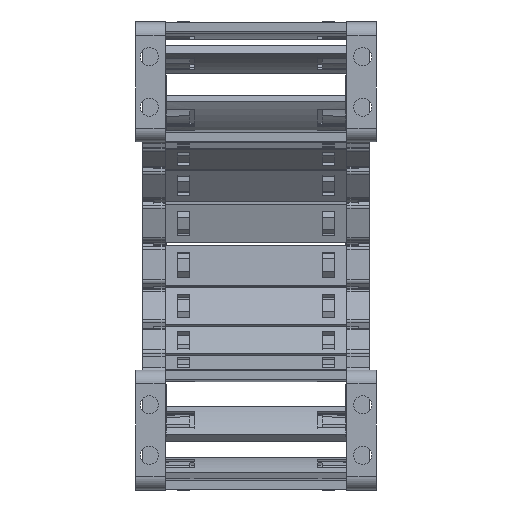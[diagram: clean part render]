
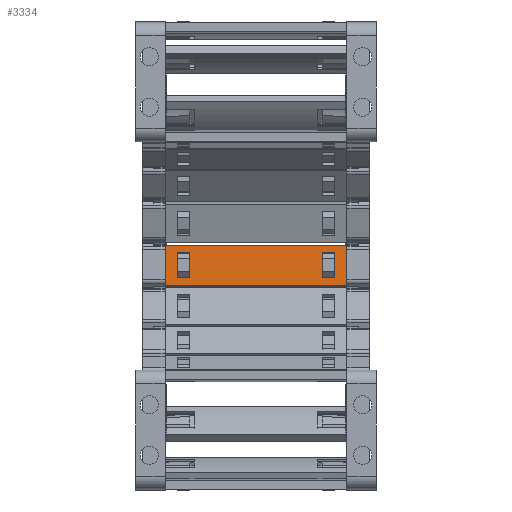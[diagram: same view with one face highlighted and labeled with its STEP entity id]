
A CAD part, left-side view. The second image highlights one B-rep face of the part: STEP entity #3334.
In plain terms, the highlighted planar face has unit normal (-0.998, 0, 0.07) as drawn and (0, 0, -1) by its records, which use the part's own axes.
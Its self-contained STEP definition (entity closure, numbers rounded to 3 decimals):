
#2814=DIRECTION('',(-1.,0.,0.));
#2815=VECTOR('',#2814,18.);
#2816=CARTESIAN_POINT('',(9.,-55.75,0.));
#2817=LINE('',#2816,#2815);
#2852=DIRECTION('',(0.,1.,0.));
#2853=VECTOR('',#2852,5.56);
#2854=CARTESIAN_POINT('',(-5.55,14.2,0.));
#2855=LINE('',#2854,#2853);
#2856=DIRECTION('',(1.,0.,0.));
#2857=VECTOR('',#2856,11.1);
#2858=CARTESIAN_POINT('',(-5.55,19.76,0.));
#2859=LINE('',#2858,#2857);
#2860=DIRECTION('',(0.,-1.,0.));
#2861=VECTOR('',#2860,5.56);
#2862=CARTESIAN_POINT('',(5.55,19.76,0.));
#2863=LINE('',#2862,#2861);
#2864=DIRECTION('',(-1.,0.,0.));
#2865=VECTOR('',#2864,11.1);
#2866=CARTESIAN_POINT('',(5.55,14.2,0.));
#2867=LINE('',#2866,#2865);
#2872=DIRECTION('',(1.,0.,0.));
#2873=VECTOR('',#2872,18.);
#2874=CARTESIAN_POINT('',(-9.,25.25,0.));
#2875=LINE('',#2874,#2873);
#2906=DIRECTION('',(0.,1.,0.));
#2907=VECTOR('',#2906,81.);
#2908=CARTESIAN_POINT('',(-9.,-55.75,0.));
#2909=LINE('',#2908,#2907);
#3035=DIRECTION('',(0.,-1.,0.));
#3036=VECTOR('',#3035,81.);
#3037=CARTESIAN_POINT('',(9.,25.25,0.));
#3038=LINE('',#3037,#3036);
#3100=DIRECTION('',(0.,-1.,0.));
#3101=VECTOR('',#3100,5.56);
#3102=CARTESIAN_POINT('',(-5.55,-44.7,0.));
#3103=LINE('',#3102,#3101);
#3112=DIRECTION('',(0.,1.,0.));
#3113=VECTOR('',#3112,5.56);
#3114=CARTESIAN_POINT('',(5.55,-50.26,0.));
#3115=LINE('',#3114,#3113);
#3124=DIRECTION('',(1.,0.,0.));
#3125=VECTOR('',#3124,11.1);
#3126=CARTESIAN_POINT('',(-5.55,-50.26,0.));
#3127=LINE('',#3126,#3125);
#3136=DIRECTION('',(-1.,0.,0.));
#3137=VECTOR('',#3136,11.1);
#3138=CARTESIAN_POINT('',(5.55,-44.7,0.));
#3139=LINE('',#3138,#3137);
#3188=CARTESIAN_POINT('',(9.,-55.75,0.));
#3189=CARTESIAN_POINT('',(-9.,-55.75,0.));
#3190=VERTEX_POINT('',#3188);
#3191=VERTEX_POINT('',#3189);
#3212=CARTESIAN_POINT('',(-5.55,-44.7,0.));
#3213=CARTESIAN_POINT('',(-5.55,-50.26,0.));
#3214=VERTEX_POINT('',#3212);
#3215=VERTEX_POINT('',#3213);
#3216=CARTESIAN_POINT('',(5.55,-44.7,0.));
#3217=VERTEX_POINT('',#3216);
#3218=CARTESIAN_POINT('',(5.55,-50.26,0.));
#3219=VERTEX_POINT('',#3218);
#3244=CARTESIAN_POINT('',(-9.,25.25,0.));
#3245=CARTESIAN_POINT('',(9.,25.25,0.));
#3246=VERTEX_POINT('',#3244);
#3247=VERTEX_POINT('',#3245);
#3248=CARTESIAN_POINT('',(-5.55,14.2,0.));
#3249=CARTESIAN_POINT('',(-5.55,19.76,0.));
#3250=VERTEX_POINT('',#3248);
#3251=VERTEX_POINT('',#3249);
#3252=CARTESIAN_POINT('',(5.55,19.76,0.));
#3253=VERTEX_POINT('',#3252);
#3254=CARTESIAN_POINT('',(5.55,14.2,0.));
#3255=VERTEX_POINT('',#3254);
#3300=CARTESIAN_POINT('',(8.,-55.75,0.));
#3301=DIRECTION('',(0.,0.,-1.));
#3302=DIRECTION('',(-1.,0.,0.));
#3303=AXIS2_PLACEMENT_3D('',#3300,#3301,#3302);
#3304=PLANE('',#3303);
#3306=ORIENTED_EDGE('',*,*,#3305,.F.);
#3308=ORIENTED_EDGE('',*,*,#3307,.F.);
#3309=ORIENTED_EDGE('',*,*,#3273,.F.);
#3311=ORIENTED_EDGE('',*,*,#3310,.F.);
#3312=EDGE_LOOP('',(#3306,#3308,#3309,#3311));
#3313=FACE_OUTER_BOUND('',#3312,.F.);
#3315=ORIENTED_EDGE('',*,*,#3314,.T.);
#3317=ORIENTED_EDGE('',*,*,#3316,.T.);
#3319=ORIENTED_EDGE('',*,*,#3318,.T.);
#3321=ORIENTED_EDGE('',*,*,#3320,.T.);
#3322=EDGE_LOOP('',(#3315,#3317,#3319,#3321));
#3323=FACE_BOUND('',#3322,.F.);
#3325=ORIENTED_EDGE('',*,*,#3324,.F.);
#3327=ORIENTED_EDGE('',*,*,#3326,.F.);
#3329=ORIENTED_EDGE('',*,*,#3328,.F.);
#3331=ORIENTED_EDGE('',*,*,#3330,.F.);
#3332=EDGE_LOOP('',(#3325,#3327,#3329,#3331));
#3333=FACE_BOUND('',#3332,.F.);
#3334=ADVANCED_FACE('',(#3313,#3323,#3333),#3304,.T.);
#3273=EDGE_CURVE('',#3190,#3191,#2817,.T.);
#3305=EDGE_CURVE('',#3246,#3247,#2875,.T.);
#3307=EDGE_CURVE('',#3191,#3246,#2909,.T.);
#3310=EDGE_CURVE('',#3247,#3190,#3038,.T.);
#3314=EDGE_CURVE('',#3250,#3251,#2855,.T.);
#3316=EDGE_CURVE('',#3251,#3253,#2859,.T.);
#3318=EDGE_CURVE('',#3253,#3255,#2863,.T.);
#3320=EDGE_CURVE('',#3255,#3250,#2867,.T.);
#3324=EDGE_CURVE('',#3214,#3215,#3103,.T.);
#3326=EDGE_CURVE('',#3217,#3214,#3139,.T.);
#3328=EDGE_CURVE('',#3219,#3217,#3115,.T.);
#3330=EDGE_CURVE('',#3215,#3219,#3127,.T.);
